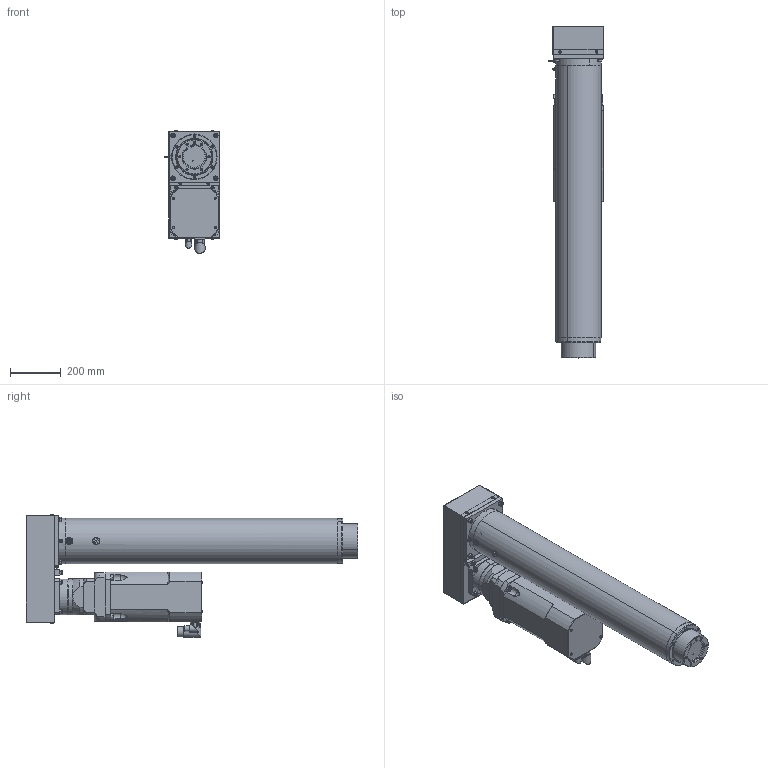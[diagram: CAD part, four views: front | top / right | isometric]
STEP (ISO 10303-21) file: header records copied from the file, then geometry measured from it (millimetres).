
FILE_DESCRIPTION (( 'STEP AP203' ), '1' );
FILE_NAME ('LN5P1000-075-020HG.STEP', '2018-01-30T12:36:16', ( '' ), ( '' ), 'SwSTEP 2.0', 'SolidWorks 2016', '' );
FILE_SCHEMA (( 'CONFIG_CONTROL_DESIGN' ));
Length unit declared in the file: millimetre
Products named in the file (1): LN5P1000-075-020HG
Bounding box: 218.14 x 1303.5 x 483.25 mm (x, y, z)
Volume: 38678408.1 mm3; surface area: 3397026.4 mm2
Topology: 44 solids, 44 shells, 1422 faces, 3321 edges, 1989 vertices
Faces by surface type: plane 553, cylinder 522, cone 237, torus 78, bspline 30, sphere 2
Entity records: 42007 total; most frequent: CARTESIAN_POINT 9318, DIRECTION 7225, ORIENTED_EDGE 6358, EDGE_CURVE 3179, AXIS2_PLACEMENT_3D 2816, VERTEX_POINT 1989, EDGE_LOOP 1692, VECTOR 1593
